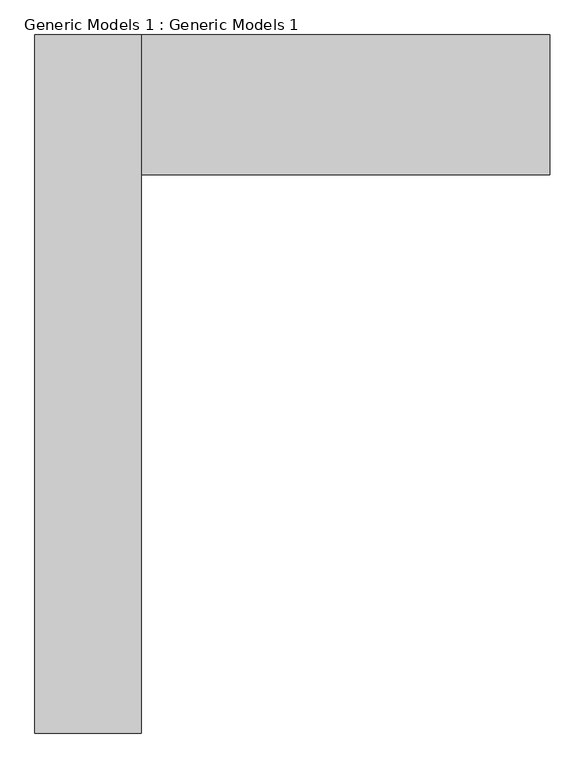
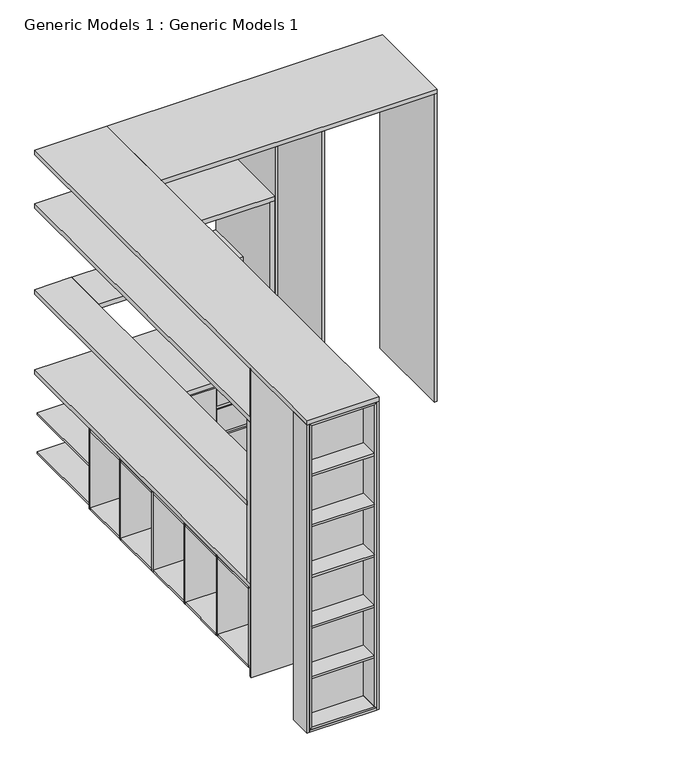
"""IFC4 building model written with IfcOpenShell, lengths in millimetres: proxy geometry, Generic Models 1 : Generic Models 1."""

from ifc_helpers import new_model, si_unit, frame, origin, origin_with_axes, place, context, project, spatial, polyline, outline, extrude, faceted_brep, source, transform, mapped, element, save


def generic_models_1_generic_models_1_2284acf8(model_context):
    return source(origin(), model_context, "Body", "SolidModel", [
        extrude(outline(polyline([(-5807.2426281, 4023.5043853), (-5807.2426281, 3569.1043853), (-5827.2426281, 3569.1043853), (-5827.2426281, 4023.5043853), (-5807.2426281, 4023.5043853)])), frame((0.0, 0.0, 562.0), z_axis=(0.0, 0.0, 1.0), x_axis=(1.0, 0.0, 0.0)), (0.0, 0.0, 1.0), 50.0),
        extrude(outline(polyline([(-5807.2426281, 4023.5043853), (-5807.2426281, 3569.1043853), (-5827.2426281, 3569.1043853), (-5827.2426281, 4023.5043853), (-5807.2426281, 4023.5043853)])), frame((0.0, 0.0, 317.0), z_axis=(0.0, 0.0, 1.0), x_axis=(1.0, 0.0, 0.0)), (0.0, 0.0, 1.0), 50.0),
        faceted_brep([(-4809.6426281, 5940.1043853, 790.0), (-4809.6426281, 5940.1043853, 70.0), (-4791.6426281, 5940.1043853, 70.0), (-4791.6426281, 5940.1043853, 790.0), (-4809.6426281, 6710.1043853, 790.0), (-4791.6426281, 6710.1043853, 790.0), (-4791.6426281, 6710.1043853, 70.0), (-4809.6426281, 6710.1043853, 70.0)], [[[0, 1, 2, 3]], [[4, 5, 6, 7]], [[1, 0, 4, 7]], [[2, 1, 7, 6]], [[3, 2, 6, 5]], [[0, 3, 5, 4]]]),
        faceted_brep([(-5275.3426281, 5940.1043853, 790.0), (-5275.3426281, 5940.1043853, 772.0), (-4810.6426281, 5940.1043853, 772.0), (-4810.6426281, 5940.1043853, 790.0), (-5275.3426281, 6710.1043853, 790.0), (-4810.6426281, 6710.1043853, 790.0), (-4810.6426281, 6710.1043853, 772.0), (-5275.3426281, 6710.1043853, 772.0)], [[[0, 1, 2, 3]], [[4, 5, 6, 7]], [[1, 0, 4, 7]], [[2, 1, 7, 6]], [[3, 2, 6, 5]], [[0, 3, 5, 4]]]),
        faceted_brep([(-5276.3426281, 5940.1043853, 790.0), (-5294.3426281, 5940.1043853, 790.0), (-5294.3426281, 5940.1043853, 70.0), (-5276.3426281, 5940.1043853, 70.0), (-5276.3426281, 6710.1043853, 790.0), (-5276.3426281, 6710.1043853, 70.0), (-5294.3426281, 6710.1043853, 70.0), (-5294.3426281, 6710.1043853, 790.0)], [[[0, 1, 2, 3]], [[4, 5, 6, 7]], [[1, 0, 4, 7]], [[2, 1, 7, 6]], [[3, 2, 6, 5]], [[0, 3, 5, 4]]]),
        faceted_brep([(-5275.3426281, 5940.1043853, 70.0), (-4810.6426281, 5940.1043853, 70.0), (-4810.6426281, 5940.1043853, 88.0), (-5275.3426281, 5940.1043853, 88.0), (-5275.3426281, 6710.1043853, 70.0), (-5275.3426281, 6710.1043853, 88.0), (-4810.6426281, 6710.1043853, 88.0), (-4810.6426281, 6710.1043853, 70.0)], [[[0, 1, 2, 3]], [[4, 5, 6, 7]], [[1, 0, 4, 7]], [[2, 1, 7, 6]], [[3, 2, 6, 5]], [[0, 3, 5, 4]]]),
        faceted_brep([(-6346.2426281, 5940.1043853, 790.0), (-6346.2426281, 5940.1043853, 772.0), (-5827.2426281, 5940.1043853, 772.0), (-5827.2426281, 5940.1043853, 790.0), (-5295.3426281, 5940.1043853, 772.0), (-5295.3426281, 5940.1043853, 790.0), (-5807.2426281, 5940.1043853, 790.0), (-5807.2426281, 5940.1043853, 70.0), (-5295.3426281, 5940.1043853, 70.0), (-5295.3426281, 5940.1043853, 88.0), (-5757.2426281, 5940.1043853, 88.0), (-5757.2426281, 5940.1043853, 421.0), (-5295.3426281, 5940.1043853, 421.0), (-5295.3426281, 5940.1043853, 439.0), (-5757.2426281, 5940.1043853, 439.0), (-5757.2426281, 5940.1043853, 772.0), (-6346.2426281, 5940.1043853, 88.0), (-6346.2426281, 5940.1043853, 70.0), (-5827.2426281, 5940.1043853, 70.0), (-5827.2426281, 5940.1043853, 88.0), (-6346.2426281, 5940.1043853, 439.0), (-6346.2426281, 5940.1043853, 421.0), (-5827.2426281, 5940.1043853, 421.0), (-5827.2426281, 5940.1043853, 439.0), (-6346.2426281, 6710.1043853, 790.0), (-5295.3426281, 6710.1043853, 790.0), (-5295.3426281, 6710.1043853, 772.0), (-6346.2426281, 6710.1043853, 772.0), (-6346.2426281, 6710.1043853, 70.0), (-6346.2426281, 6710.1043853, 88.0), (-5295.3426281, 6710.1043853, 88.0), (-5295.3426281, 6710.1043853, 70.0), (-6346.2426281, 6710.1043853, 439.0), (-5295.3426281, 6710.1043853, 439.0), (-5295.3426281, 6710.1043853, 421.0), (-6346.2426281, 6710.1043853, 421.0), (-5757.2426281, 5960.1043853, 772.0), (-5809.1951387, 5960.1043853, 772.0), (-5827.2426281, 5960.1043853, 772.0), (-5827.2426281, 5914.093891, 790.0), (-5807.2426281, 5914.093891, 790.0), (-5807.2426281, 5914.093891, 70.0), (-5827.2426281, 5914.093891, 70.0), (-5827.2426281, 5960.1043853, 88.0), (-5809.1951387, 5960.1043853, 88.0), (-5757.2426281, 5960.1043853, 88.0), (-5757.2426281, 5960.1043853, 421.0), (-5809.1951387, 5960.1043853, 421.0), (-5827.2426281, 5960.1043853, 421.0), (-5827.2426281, 5960.1043853, 439.0), (-5809.1951387, 5960.1043853, 439.0), (-5757.2426281, 5960.1043853, 439.0)], [[[0, 1, 2, 3]], [[4, 5, 6, 7, 8, 9, 10, 11, 12, 13, 14, 15]], [[16, 17, 18, 19]], [[20, 21, 22, 23]], [[24, 25, 26, 27]], [[28, 29, 30, 31]], [[32, 33, 34, 35]], [[1, 0, 24, 27]], [[27, 26, 4, 15, 36, 37, 38, 2, 1]], [[5, 4, 26, 25]], [[25, 24, 0, 3, 39, 40, 6, 5]], [[28, 31, 8, 7, 41, 42, 18, 17]], [[9, 8, 31, 30]], [[30, 29, 16, 19, 43, 44, 45, 10, 9]], [[17, 16, 29, 28]], [[21, 20, 32, 35]], [[35, 34, 12, 11, 46, 47, 48, 22, 21]], [[13, 12, 34, 33]], [[33, 32, 20, 23, 49, 50, 51, 14, 13]], [[40, 39, 42, 41]], [[7, 6, 40, 41]], [[11, 10, 45, 46]], [[15, 14, 51, 36]], [[46, 45, 44, 47]], [[36, 51, 50, 37]], [[47, 44, 43, 48]], [[37, 50, 49, 38]], [[42, 39, 3, 2, 38, 49, 23, 22, 48, 43, 19, 18]]]),
        extrude(outline(polyline([(-4810.6426281, 5940.1043853), (-5275.3426281, 5940.1043853), (-5275.3426281, 5960.1043853), (-4810.6426281, 5960.1043853), (-4810.6426281, 5940.1043853)])), frame((0.0, 0.0, 562.0), z_axis=(0.0, 0.0, 1.0), x_axis=(1.0, 0.0, 0.0)), (0.0, 0.0, 1.0), 50.0),
        extrude(outline(polyline([(-4810.6426281, 5940.1043853), (-5275.3426281, 5940.1043853), (-5275.3426281, 5960.1043853), (-4810.6426281, 5960.1043853), (-4810.6426281, 5940.1043853)])), frame((0.0, 0.0, 317.0), z_axis=(0.0, 0.0, 1.0), x_axis=(1.0, 0.0, 0.0)), (0.0, 0.0, 1.0), 50.0),
        extrude(outline(polyline([(5920.1043853, 602.0), (5920.1043853, 772.0), (5931.4118309, 772.0), (5940.1043853, 756.9440541), (5940.1043853, 602.0), (5920.1043853, 602.0)])), frame((-5282.8426281, 0.0, 0.0), z_axis=(1.0, 0.0, 0.0), x_axis=(0.0, 1.0, 0.0)), (0.0, 0.0, 1.0), 486.2),
        extrude(outline(polyline([(5920.1043853, 357.0), (5920.1043853, 572.0), (5931.4118309, 572.0), (5940.1043853, 556.9440541), (5940.1043853, 357.0), (5920.1043853, 357.0)])), frame((-5282.8426281, 0.0, 0.0), z_axis=(1.0, 0.0, 0.0), x_axis=(0.0, 1.0, 0.0)), (0.0, 0.0, 1.0), 486.2),
        extrude(outline(polyline([(5920.1043853, 70.0), (5920.1043853, 327.0), (5931.4118309, 327.0), (5940.1043853, 311.9440541), (5940.1043853, 70.0), (5920.1043853, 70.0)])), frame((-5282.8426281, 0.0, 0.0), z_axis=(1.0, 0.0, 0.0), x_axis=(0.0, 1.0, 0.0)), (0.0, 0.0, 1.0), 486.2),
        extrude(outline(polyline([(5920.1043853, 70.0), (5920.1043853, 772.0), (5931.4118309, 772.0), (5940.1043853, 756.9440541), (5940.1043853, 70.0), (5920.1043853, 70.0)])), frame((-5757.2426281, 0.0, 0.0), z_axis=(1.0, 0.0, 0.0), x_axis=(0.0, 1.0, 0.0)), (0.0, 0.0, 1.0), 469.4),
        extrude(outline(polyline([(-4831.6426281, 6700.1043853), (-4831.6426281, 6650.1043853), (-6307.2426281, 6650.1043853), (-6307.2426281, 3590.1043853), (-6357.2426281, 3590.1043853), (-6357.2426281, 6700.1043853), (-4831.6426281, 6700.1043853)])), frame((0.0, 0.0, 1520.0), z_axis=(0.0, 0.0, 1.0), x_axis=(1.0, 0.0, 0.0)), (0.0, 0.0, 1.0), 10.0),
        faceted_brep([(-6057.2426281, 3590.1043853, 1550.0), (-6057.2426281, 6710.1043853, 1550.0), (-6367.2426281, 6710.1043853, 1550.0), (-6367.2426281, 3590.1043853, 1550.0), (-6057.2426281, 3590.1043853, 1510.0), (-6307.2426281, 3590.1043853, 1510.0), (-6307.2426281, 6650.1043853, 1510.0), (-6057.2426281, 6650.1043853, 1510.0), (-6367.2426281, 3590.1043853, 1510.0), (-6367.2426281, 6710.1043853, 1510.0), (-6057.2426281, 6710.1043853, 1510.0), (-6057.2426281, 6700.1043853, 1510.0), (-6357.2426281, 6700.1043853, 1510.0), (-6357.2426281, 3590.1043853, 1510.0), (-6057.2426281, 6650.1043853, 1530.0), (-6057.2426281, 6700.1043853, 1530.0), (-6357.2426281, 3590.1043853, 1530.0), (-6307.2426281, 3590.1043853, 1530.0), (-6307.2426281, 6650.1043853, 1530.0), (-6357.2426281, 6700.1043853, 1530.0)], [[[0, 1, 2, 3]], [[4, 5, 6, 7]], [[8, 9, 10, 11, 12, 13]], [[1, 0, 4, 7, 14, 15, 11, 10]], [[2, 1, 10, 9]], [[3, 2, 9, 8]], [[0, 3, 8, 13, 16, 17, 5, 4]], [[6, 18, 14, 7]], [[18, 17, 16, 19, 15, 14]], [[17, 18, 6, 5]], [[19, 12, 11, 15]], [[19, 16, 13, 12]]]),
        faceted_brep([(-6056.2426281, 6310.1043853, 1550.0), (-4831.6426281, 6310.1043853, 1550.0), (-4831.6426281, 6710.1043853, 1550.0), (-6056.2426281, 6710.1043853, 1550.0), (-4831.6426281, 6310.1043853, 1510.0), (-6056.2426281, 6310.1043853, 1510.0), (-6056.2426281, 6650.1043853, 1510.0), (-4831.6426281, 6650.1043853, 1510.0), (-6056.2426281, 6710.1043853, 1510.0), (-4831.6426281, 6710.1043853, 1510.0), (-4831.6426281, 6700.1043853, 1510.0), (-6056.2426281, 6700.1043853, 1510.0), (-4831.6426281, 6650.1043853, 1530.0), (-4831.6426281, 6700.1043853, 1530.0), (-6056.2426281, 6700.1043853, 1530.0), (-6056.2426281, 6650.1043853, 1530.0)], [[[0, 1, 2, 3]], [[4, 5, 6, 7]], [[8, 9, 10, 11]], [[1, 0, 5, 4]], [[2, 1, 4, 7, 12, 13, 10, 9]], [[3, 2, 9, 8]], [[0, 3, 8, 11, 14, 15, 6, 5]], [[15, 12, 7, 6]], [[12, 15, 14, 13]], [[13, 14, 11, 10]]]),
        extrude(outline(polyline([(-5757.2426281, 3550.1043853), (-6367.2426281, 3550.1043853), (-6367.2426281, 3590.1043853), (-5757.2426281, 3590.1043853), (-5757.2426281, 3550.1043853)])), frame((0.0, 0.0, 831.0), z_axis=(0.0, 0.0, 1.0), x_axis=(1.0, 0.0, 0.0)), (0.0, 0.0, 1.0), 1448.0),
        extrude(outline(polyline([(-4831.6426281, 6710.1043853), (-4791.6426281, 6710.1043853), (-4791.6426281, 5910.1043853), (-4831.6426281, 5910.1043853), (-4831.6426281, 6710.1043853)])), frame((0.0, 0.0, 831.0), z_axis=(0.0, 0.0, 1.0), x_axis=(1.0, 0.0, 0.0)), (0.0, 0.0, 1.0), 1448.0),
        extrude(outline(polyline([(-5777.2426281, 2872.1043853), (-6347.2426281, 2872.1043853), (-6347.2426281, 2890.1043853), (-5777.2426281, 2890.1043853), (-5777.2426281, 2872.1043853)])), frame((0.0, 0.0, 20.0), z_axis=(0.0, 0.0, 1.0), x_axis=(1.0, 0.0, 0.0)), (0.0, 0.0, 1.0), 2740.0),
        extrude(outline(polyline([(2759.2928932, -6347.2426281), (20.7071068, -6347.2426281), (38.7071068, -6329.2426281), (2741.2928932, -6329.2426281), (2759.2928932, -6347.2426281)])), frame((0.0, 2710.1043853, 0.0), z_axis=(0.0, 1.0, 0.0), x_axis=(0.0, 0.0, 1.0)), (0.0, 0.0, 1.0), 162.0),
        extrude(outline(polyline([(2760.0, -5777.9497349), (2760.0, -6346.5355214), (2742.0, -6328.5355214), (2742.0, -5795.9497349), (2760.0, -5777.9497349)])), frame((0.0, 2710.1043853, 0.0), z_axis=(0.0, 1.0, 0.0), x_axis=(0.0, 0.0, 1.0)), (0.0, 0.0, 1.0), 162.0),
        extrude(outline(polyline([(20.0, -5777.9497349), (38.0, -5795.9497349), (38.0, -6328.5355214), (20.0, -6346.5355214), (20.0, -5777.9497349)])), frame((0.0, 2710.1043853, 0.0), z_axis=(0.0, 1.0, 0.0), x_axis=(0.0, 0.0, 1.0)), (0.0, 0.0, 1.0), 162.0),
        extrude(outline(polyline([(2759.2928932, -5777.2426281), (2741.2928932, -5795.2426281), (38.7071068, -5795.2426281), (20.7071068, -5777.2426281), (2759.2928932, -5777.2426281)])), frame((0.0, 2710.1043853, 0.0), z_axis=(0.0, 1.0, 0.0), x_axis=(0.0, 0.0, 1.0)), (0.0, 0.0, 1.0), 162.0),
        extrude(outline(polyline([(-5796.2426281, 2710.1043853), (-6328.2426281, 2710.1043853), (-6328.2426281, 2872.1043853), (-5796.2426281, 2872.1043853), (-5796.2426281, 2710.1043853)])), frame((0.0, 0.0, 1834.6666667), z_axis=(0.0, 0.0, 1.0), x_axis=(1.0, 0.0, 0.0)), (0.0, 0.0, 1.0), 18.0),
        extrude(outline(polyline([(-5796.2426281, 2710.1043853), (-6328.2426281, 2710.1043853), (-6328.2426281, 2872.1043853), (-5796.2426281, 2872.1043853), (-5796.2426281, 2710.1043853)])), frame((0.0, 0.0, 2288.3333333), z_axis=(0.0, 0.0, 1.0), x_axis=(1.0, 0.0, 0.0)), (0.0, 0.0, 1.0), 18.0),
        extrude(outline(polyline([(-5796.2426281, 2710.1043853), (-6328.2426281, 2710.1043853), (-6328.2426281, 2872.1043853), (-5796.2426281, 2872.1043853), (-5796.2426281, 2710.1043853)])), frame((0.0, 0.0, 1381.0), z_axis=(0.0, 0.0, 1.0), x_axis=(1.0, 0.0, 0.0)), (0.0, 0.0, 1.0), 18.0),
        extrude(outline(polyline([(-5796.2426281, 2710.1043853), (-6328.2426281, 2710.1043853), (-6328.2426281, 2872.1043853), (-5796.2426281, 2872.1043853), (-5796.2426281, 2710.1043853)])), frame((0.0, 0.0, 927.3333333), z_axis=(0.0, 0.0, 1.0), x_axis=(1.0, 0.0, 0.0)), (0.0, 0.0, 1.0), 18.0),
        extrude(outline(polyline([(-5796.2426281, 2710.1043853), (-6328.2426281, 2710.1043853), (-6328.2426281, 2872.1043853), (-5796.2426281, 2872.1043853), (-5796.2426281, 2710.1043853)])), frame((0.0, 0.0, 473.6666667), z_axis=(0.0, 0.0, 1.0), x_axis=(1.0, 0.0, 0.0)), (0.0, 0.0, 1.0), 18.0),
        extrude(outline(polyline([(-5778.2426281, 2890.1043853), (-5778.2426281, 2710.1043853), (-6346.2426281, 2710.1043853), (-6346.2426281, 2890.1043853), (-5778.2426281, 2890.1043853)])), origin_with_axes(), (0.0, 0.0, 1.0), 20.0),
        extrude(outline(polyline([(-5807.2426281, 5940.1043853), (-5807.2426281, 3550.1043853), (-5827.2426281, 3550.1043853), (-5827.2426281, 5960.1043853), (-4791.6426281, 5960.1043853), (-4791.6426281, 5940.1043853), (-5807.2426281, 5940.1043853)])), origin_with_axes(), (0.0, 0.0, 1.0), 70.0),
        extrude(outline(polyline([(-5807.2426281, 3530.1043853), (-5807.2426281, 2910.1043853), (-5827.2426281, 2910.1043853), (-5827.2426281, 3530.1043853), (-5807.2426281, 3530.1043853)])), origin_with_axes(), (0.0, 0.0, 1.0), 70.0),
        extrude(outline(polyline([(-4391.6426281, 5960.1043853), (-4391.6426281, 5940.1043853), (-4771.6426281, 5940.1043853), (-4771.6426281, 5960.1043853), (-4391.6426281, 5960.1043853)])), origin_with_axes(), (0.0, 0.0, 1.0), 70.0),
        extrude(outline(polyline([(70.0, -5787.2426281), (772.0, -5787.2426281), (772.0, -5798.5500737), (756.9440541, -5807.2426281), (70.0, -5807.2426281), (70.0, -5787.2426281)])), frame((0.0, 5459.2043853, 0.0), z_axis=(0.0, 1.0, 0.0), x_axis=(0.0, 0.0, 1.0)), (0.0, 0.0, 1.0), 450.9),
        extrude(outline(polyline([(70.0, -5787.2426281), (772.0, -5787.2426281), (772.0, -5798.5500737), (756.9440541, -5807.2426281), (70.0, -5807.2426281), (70.0, -5787.2426281)])), frame((0.0, 4984.8043853, 0.0), z_axis=(0.0, 1.0, 0.0), x_axis=(0.0, 0.0, 1.0)), (0.0, 0.0, 1.0), 469.4),
        extrude(outline(polyline([(70.0, -5787.2426281), (772.0, -5787.2426281), (772.0, -5798.5500737), (756.9440541, -5807.2426281), (70.0, -5807.2426281), (70.0, -5787.2426281)])), frame((0.0, 4510.4043853, 0.0), z_axis=(0.0, 1.0, 0.0), x_axis=(0.0, 0.0, 1.0)), (0.0, 0.0, 1.0), 469.4),
        extrude(outline(polyline([(70.0, -5787.2426281), (772.0, -5787.2426281), (772.0, -5798.5500737), (756.9440541, -5807.2426281), (70.0, -5807.2426281), (70.0, -5787.2426281)])), frame((0.0, 4036.0043853, 0.0), z_axis=(0.0, 1.0, 0.0), x_axis=(0.0, 0.0, 1.0)), (0.0, 0.0, 1.0), 469.4),
        extrude(outline(polyline([(602.0, -5787.2426281), (772.0, -5787.2426281), (772.0, -5798.5500737), (756.9440541, -5807.2426281), (602.0, -5807.2426281), (602.0, -5787.2426281)])), frame((0.0, 3555.1043853, 0.0), z_axis=(0.0, 1.0, 0.0), x_axis=(0.0, 0.0, 1.0)), (0.0, 0.0, 1.0), 475.9),
        extrude(outline(polyline([(357.0, -5787.2426281), (572.0, -5787.2426281), (572.0, -5798.5500737), (556.9440541, -5807.2426281), (357.0, -5807.2426281), (357.0, -5787.2426281)])), frame((0.0, 3555.1043853, 0.0), z_axis=(0.0, 1.0, 0.0), x_axis=(0.0, 0.0, 1.0)), (0.0, 0.0, 1.0), 475.9),
        extrude(outline(polyline([(70.0, -5787.2426281), (327.0, -5787.2426281), (327.0, -5798.5500737), (311.9440541, -5807.2426281), (70.0, -5807.2426281), (70.0, -5787.2426281)])), frame((0.0, 3555.1043853, 0.0), z_axis=(0.0, 1.0, 0.0), x_axis=(0.0, 0.0, 1.0)), (0.0, 0.0, 1.0), 475.9),
        extrude(outline(polyline([(-5807.2426281, 3568.1043853), (-5807.2426281, 3550.1043853), (-6367.2426281, 3550.1043853), (-6367.2426281, 3568.1043853), (-5807.2426281, 3568.1043853)])), frame((0.0, 0.0, 70.0), z_axis=(0.0, 0.0, 1.0), x_axis=(1.0, 0.0, 0.0)), (0.0, 0.0, 1.0), 720.0),
        extrude(outline(polyline([(-5807.2426281, 4042.5043853), (-5807.2426281, 4024.5043853), (-6367.2426281, 4024.5043853), (-6367.2426281, 4042.5043853), (-5807.2426281, 4042.5043853)])), frame((0.0, 0.0, 70.0), z_axis=(0.0, 0.0, 1.0), x_axis=(1.0, 0.0, 0.0)), (0.0, 0.0, 1.0), 720.0),
        extrude(outline(polyline([(-5807.2426281, 4023.5043853), (-5807.2426281, 3569.1043853), (-6367.2426281, 3569.1043853), (-6367.2426281, 4023.5043853), (-5807.2426281, 4023.5043853)])), frame((0.0, 0.0, 772.0), z_axis=(0.0, 0.0, 1.0), x_axis=(1.0, 0.0, 0.0)), (0.0, 0.0, 1.0), 18.0),
        extrude(outline(polyline([(-5807.2426281, 4023.5043853), (-5807.2426281, 3569.1043853), (-6367.2426281, 3569.1043853), (-6367.2426281, 4023.5043853), (-5807.2426281, 4023.5043853)])), frame((0.0, 0.0, 70.0), z_axis=(0.0, 0.0, 1.0), x_axis=(1.0, 0.0, 0.0)), (0.0, 0.0, 1.0), 18.0),
        extrude(outline(polyline([(-5807.2426281, 4516.9043853), (-5807.2426281, 4498.9043853), (-6367.2426281, 4498.9043853), (-6367.2426281, 4516.9043853), (-5807.2426281, 4516.9043853)])), frame((0.0, 0.0, 70.0), z_axis=(0.0, 0.0, 1.0), x_axis=(1.0, 0.0, 0.0)), (0.0, 0.0, 1.0), 720.0),
        extrude(outline(polyline([(-5807.2426281, 4497.9043853), (-5807.2426281, 4043.5043853), (-6367.2426281, 4043.5043853), (-6367.2426281, 4497.9043853), (-5807.2426281, 4497.9043853)])), frame((0.0, 0.0, 772.0), z_axis=(0.0, 0.0, 1.0), x_axis=(1.0, 0.0, 0.0)), (0.0, 0.0, 1.0), 18.0),
        extrude(outline(polyline([(-5807.2426281, 4497.9043853), (-5807.2426281, 4043.5043853), (-6367.2426281, 4043.5043853), (-6367.2426281, 4497.9043853), (-5807.2426281, 4497.9043853)])), frame((0.0, 0.0, 70.0), z_axis=(0.0, 0.0, 1.0), x_axis=(1.0, 0.0, 0.0)), (0.0, 0.0, 1.0), 18.0),
        extrude(outline(polyline([(-5807.2426281, 4991.3043853), (-5807.2426281, 4973.3043853), (-6367.2426281, 4973.3043853), (-6367.2426281, 4991.3043853), (-5807.2426281, 4991.3043853)])), frame((0.0, 0.0, 70.0), z_axis=(0.0, 0.0, 1.0), x_axis=(1.0, 0.0, 0.0)), (0.0, 0.0, 1.0), 720.0),
        extrude(outline(polyline([(-5807.2426281, 4972.3043853), (-5807.2426281, 4517.9043853), (-6367.2426281, 4517.9043853), (-6367.2426281, 4972.3043853), (-5807.2426281, 4972.3043853)])), frame((0.0, 0.0, 772.0), z_axis=(0.0, 0.0, 1.0), x_axis=(1.0, 0.0, 0.0)), (0.0, 0.0, 1.0), 18.0),
        extrude(outline(polyline([(-5807.2426281, 4972.3043853), (-5807.2426281, 4517.9043853), (-6367.2426281, 4517.9043853), (-6367.2426281, 4972.3043853), (-5807.2426281, 4972.3043853)])), frame((0.0, 0.0, 70.0), z_axis=(0.0, 0.0, 1.0), x_axis=(1.0, 0.0, 0.0)), (0.0, 0.0, 1.0), 18.0),
        extrude(outline(polyline([(-5807.2426281, 5465.7043853), (-5807.2426281, 5447.7043853), (-6367.2426281, 5447.7043853), (-6367.2426281, 5465.7043853), (-5807.2426281, 5465.7043853)])), frame((0.0, 0.0, 70.0), z_axis=(0.0, 0.0, 1.0), x_axis=(1.0, 0.0, 0.0)), (0.0, 0.0, 1.0), 720.0),
        extrude(outline(polyline([(-5807.2426281, 5446.7043853), (-5807.2426281, 4992.3043853), (-6367.2426281, 4992.3043853), (-6367.2426281, 5446.7043853), (-5807.2426281, 5446.7043853)])), frame((0.0, 0.0, 772.0), z_axis=(0.0, 0.0, 1.0), x_axis=(1.0, 0.0, 0.0)), (0.0, 0.0, 1.0), 18.0),
        extrude(outline(polyline([(-5807.2426281, 5446.7043853), (-5807.2426281, 4992.3043853), (-6367.2426281, 4992.3043853), (-6367.2426281, 5446.7043853), (-5807.2426281, 5446.7043853)])), frame((0.0, 0.0, 70.0), z_axis=(0.0, 0.0, 1.0), x_axis=(1.0, 0.0, 0.0)), (0.0, 0.0, 1.0), 18.0),
        extrude(outline(polyline([(-5807.2426281, 5914.093891), (-5807.2426281, 5896.093891), (-6367.2426281, 5896.093891), (-6367.2426281, 5914.093891), (-5807.2426281, 5914.093891)])), frame((0.0, 0.0, 70.0), z_axis=(0.0, 0.0, 1.0), x_axis=(1.0, 0.0, 0.0)), (0.0, 0.0, 1.0), 720.0),
        extrude(outline(polyline([(-5807.2426281, 5895.093891), (-5807.2426281, 5466.7043853), (-6367.2426281, 5466.7043853), (-6367.2426281, 5895.093891), (-5807.2426281, 5895.093891)])), frame((0.0, 0.0, 772.0), z_axis=(0.0, 0.0, 1.0), x_axis=(1.0, 0.0, 0.0)), (0.0, 0.0, 1.0), 18.0),
        extrude(outline(polyline([(-5807.2426281, 5895.093891), (-5807.2426281, 5466.7043853), (-6367.2426281, 5466.7043853), (-6367.2426281, 5895.093891), (-5807.2426281, 5895.093891)])), frame((0.0, 0.0, 70.0), z_axis=(0.0, 0.0, 1.0), x_axis=(1.0, 0.0, 0.0)), (0.0, 0.0, 1.0), 18.0),
        extrude(outline(polyline([(-5757.2426281, 3550.1043853), (-6367.2426281, 3550.1043853), (-6367.2426281, 6710.1043853), (-5757.2426281, 6710.1043853), (-5757.2426281, 3550.1043853)])), frame((0.0, 0.0, 790.0), z_axis=(0.0, 0.0, 1.0), x_axis=(1.0, 0.0, 0.0)), (0.0, 0.0, 1.0), 40.0),
        extrude(outline(polyline([(-5756.2426281, 5910.1043853), (-5756.2426281, 6710.1043853), (-4791.6426281, 6710.1043853), (-4791.6426281, 5910.1043853), (-5756.2426281, 5910.1043853)])), frame((0.0, 0.0, 790.0), z_axis=(0.0, 0.0, 1.0), x_axis=(1.0, 0.0, 0.0)), (0.0, 0.0, 1.0), 40.0),
        extrude(outline(polyline([(-5757.2426281, 3550.1043853), (-6367.2426281, 3550.1043853), (-6367.2426281, 6710.1043853), (-5757.2426281, 6710.1043853), (-5757.2426281, 3550.1043853)])), frame((0.0, 0.0, 2280.0), z_axis=(0.0, 0.0, 1.0), x_axis=(1.0, 0.0, 0.0)), (0.0, 0.0, 1.0), 40.0),
        extrude(outline(polyline([(-5756.2426281, 5910.1043853), (-5756.2426281, 6710.1043853), (-4791.6426281, 6710.1043853), (-4791.6426281, 5910.1043853), (-5756.2426281, 5910.1043853)])), frame((0.0, 0.0, 2280.0), z_axis=(0.0, 0.0, 1.0), x_axis=(1.0, 0.0, 0.0)), (0.0, 0.0, 1.0), 40.0),
        extrude(outline(polyline([(-5777.2426281, 2710.1043853), (-5777.2426281, 2910.1043853), (-5757.2426281, 2910.1043853), (-5757.2426281, 2710.1043853), (-5777.2426281, 2710.1043853)])), origin_with_axes(), (0.0, 0.0, 1.0), 2760.0),
        extrude(outline(polyline([(-6346.2426281, 2910.1043853), (-5778.2426281, 2910.1043853), (-5778.2426281, 2890.1043853), (-6346.2426281, 2890.1043853), (-6346.2426281, 2910.1043853)])), origin_with_axes(), (0.0, 0.0, 1.0), 2760.0),
        extrude(outline(polyline([(-6367.2426281, 2710.1043853), (-6367.2426281, 2910.1043853), (-6347.2426281, 2910.1043853), (-6347.2426281, 2710.1043853), (-6367.2426281, 2710.1043853)])), origin_with_axes(), (0.0, 0.0, 1.0), 2760.0),
        extrude(outline(polyline([(-6367.2426281, 3550.1043853), (-5757.2426281, 3550.1043853), (-5757.2426281, 3530.1043853), (-6367.2426281, 3530.1043853), (-6367.2426281, 3550.1043853)])), origin_with_axes(), (0.0, 0.0, 1.0), 2760.0),
        extrude(outline(polyline([(-3437.2426281, 6710.1043853), (-3417.2426281, 6710.1043853), (-3417.2426281, 5910.1043853), (-3437.2426281, 5910.1043853), (-3437.2426281, 6710.1043853)])), origin_with_axes(), (0.0, 0.0, 1.0), 2760.0),
        extrude(outline(polyline([(-4391.6426281, 6710.1043853), (-4371.6426281, 6710.1043853), (-4371.6426281, 5910.1043853), (-4391.6426281, 5910.1043853), (-4391.6426281, 6710.1043853)])), origin_with_axes(), (0.0, 0.0, 1.0), 2760.0),
        extrude(outline(polyline([(-4791.6426281, 6710.1043853), (-4771.6426281, 6710.1043853), (-4771.6426281, 5910.1043853), (-4791.6426281, 5910.1043853), (-4791.6426281, 6710.1043853)])), origin_with_axes(), (0.0, 0.0, 1.0), 2760.0),
        extrude(outline(polyline([(-5757.2426281, 6710.1043853), (-5757.2426281, 2710.1043853), (-6367.2426281, 2710.1043853), (-6367.2426281, 6710.1043853), (-5757.2426281, 6710.1043853)])), frame((0.0, 0.0, 2760.0), z_axis=(0.0, 0.0, 1.0), x_axis=(1.0, 0.0, 0.0)), (0.0, 0.0, 1.0), 40.0),
        extrude(outline(polyline([(-5756.2426281, 6710.1043853), (-3417.2426281, 6710.1043853), (-3417.2426281, 5910.1043853), (-5756.2426281, 5910.1043853), (-5756.2426281, 6710.1043853)])), frame((0.0, 0.0, 2760.0), z_axis=(0.0, 0.0, 1.0), x_axis=(1.0, 0.0, 0.0)), (0.0, 0.0, 1.0), 40.0),
    ])


if __name__ == "__main__":
    model = new_model("IFC4")
    model_context = context("Model", 3, world=origin())
    ifc_project = project(units=[si_unit("LENGTHUNIT", "METRE", prefix="MILLI")], contexts=[model_context])
    site = spatial("IfcSite", under=ifc_project)
    building = spatial("IfcBuilding", under=site)
    placement = place(None, origin())
    generic_models_1_generic_models_1_shape = generic_models_1_generic_models_1_2284acf8(model_context)
    element("IfcBuildingElementProxy", 1, Name="Generic Models 1 : Generic Models 1", ObjectType="Generic Models 1 : Generic Models 1", at=placement, inside=building, context=model_context, shape_type="MappedRepresentation", body=[
        mapped(generic_models_1_generic_models_1_shape, transform((0.0, 0.0, 0.0), x_axis=(1.0, 0.0, 0.0), y_axis=(0.0, 1.0, 0.0), z_axis=(0.0, 0.0, 1.0))),
    ])
    save(model, "model.ifc")
